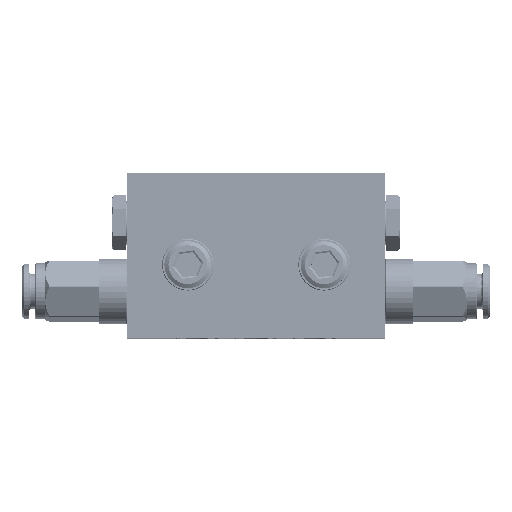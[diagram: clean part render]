
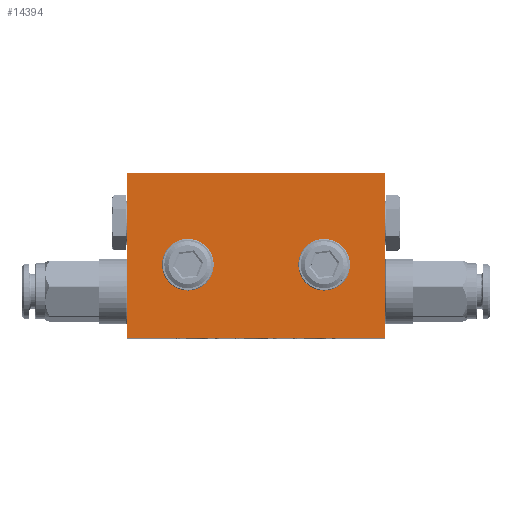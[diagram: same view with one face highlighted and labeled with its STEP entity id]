
A CAD part, top view. The second image highlights one B-rep face of the part: STEP entity #14394.
In plain terms, the highlighted planar face has unit normal (0, 0, 1) as drawn and (0, 0, -1) by its records, which use the part's own axes.
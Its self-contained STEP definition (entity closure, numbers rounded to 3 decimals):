
#429 = CARTESIAN_POINT ( 'NONE',  ( 27.5, 0., -4.85 ) ) ;
#1029 = CARTESIAN_POINT ( 'NONE',  ( -14.5, -15.5, -4.85 ) ) ;
#1057 = CARTESIAN_POINT ( 'NONE',  ( 0., 0., -4.85 ) ) ;
#1466 = EDGE_CURVE ( 'NONE', #14002, #42035, #27618, .T. ) ;
#2678 = ORIENTED_EDGE ( 'NONE', *, *, #15891, .F. ) ;
#3101 = CARTESIAN_POINT ( 'NONE',  ( -27.5, -35., -4.85 ) ) ;
#3569 = LINE ( 'NONE', #25294, #26874 ) ;
#4361 = EDGE_CURVE ( 'NONE', #18290, #4427, #34088, .T. ) ;
#4427 = VERTEX_POINT ( 'NONE', #8707 ) ;
#5459 = DIRECTION ( 'NONE',  ( 1., 0., 0. ) ) ;
#8068 = DIRECTION ( 'NONE',  ( 0., 0., -1. ) ) ;
#8304 = CARTESIAN_POINT ( 'NONE',  ( 0., 0., -4.85 ) ) ;
#8707 = CARTESIAN_POINT ( 'NONE',  ( -27.5, 0., -4.85 ) ) ;
#8827 = VERTEX_POINT ( 'NONE', #42617 ) ;
#11908 = AXIS2_PLACEMENT_3D ( 'NONE', #8304, #44727, #44500 ) ;
#12988 = ORIENTED_EDGE ( 'NONE', *, *, #28572, .F. ) ;
#14002 = VERTEX_POINT ( 'NONE', #3101 ) ;
#14394 = ADVANCED_FACE ( 'NONE', ( #44958, #44275, #18410 ), #33593, .F. ) ;
#14583 = CARTESIAN_POINT ( 'NONE',  ( 27.5, -35., -4.85 ) ) ;
#15202 = EDGE_CURVE ( 'NONE', #8827, #8827, #21712, .T. ) ;
#15741 = DIRECTION ( 'NONE',  ( -1., 0., 0. ) ) ;
#15891 = EDGE_CURVE ( 'NONE', #4427, #14002, #17829, .T. ) ;
#17757 = EDGE_CURVE ( 'NONE', #26922, #26922, #20040, .T. ) ;
#17829 = LINE ( 'NONE', #29415, #28678 ) ;
#18290 = VERTEX_POINT ( 'NONE', #429 ) ;
#18410 = FACE_OUTER_BOUND ( 'NONE', #40582, .T. ) ;
#18569 = DIRECTION ( 'NONE',  ( 0., -1., 0. ) ) ;
#19678 = CARTESIAN_POINT ( 'NONE',  ( 14.5, -15.5, -4.85 ) ) ;
#20040 = CIRCLE ( 'NONE', #23142, 3.1 ) ;
#20149 = CARTESIAN_POINT ( 'NONE',  ( 0., -35., -4.85 ) ) ;
#21712 = CIRCLE ( 'NONE', #30152, 3.1 ) ;
#22331 = DIRECTION ( 'NONE',  ( 0., 0., -1. ) ) ;
#23142 = AXIS2_PLACEMENT_3D ( 'NONE', #1029, #8068, #37948 ) ;
#23337 = ORIENTED_EDGE ( 'NONE', *, *, #4361, .F. ) ;
#24326 = ORIENTED_EDGE ( 'NONE', *, *, #17757, .F. ) ;
#24893 = VECTOR ( 'NONE', #15741, 1000. ) ;
#25294 = CARTESIAN_POINT ( 'NONE',  ( 27.5, 0., -4.85 ) ) ;
#26874 = VECTOR ( 'NONE', #43686, 1000. ) ;
#26922 = VERTEX_POINT ( 'NONE', #30739 ) ;
#27618 = LINE ( 'NONE', #20149, #41942 ) ;
#28572 = EDGE_CURVE ( 'NONE', #42035, #18290, #3569, .T. ) ;
#28678 = VECTOR ( 'NONE', #18569, 1000. ) ;
#29415 = CARTESIAN_POINT ( 'NONE',  ( -27.5, 0., -4.85 ) ) ;
#29554 = DIRECTION ( 'NONE',  ( -1., 0., 0. ) ) ;
#30152 = AXIS2_PLACEMENT_3D ( 'NONE', #19678, #22331, #29554 ) ;
#30739 = CARTESIAN_POINT ( 'NONE',  ( -11.4, -15.5, -4.85 ) ) ;
#31300 = ORIENTED_EDGE ( 'NONE', *, *, #15202, .F. ) ;
#33593 = PLANE ( 'NONE',  #11908 ) ;
#34088 = LINE ( 'NONE', #1057, #24893 ) ;
#37948 = DIRECTION ( 'NONE',  ( 1., 0., 0. ) ) ;
#40582 = EDGE_LOOP ( 'NONE', ( #42319, #2678, #23337, #12988 ) ) ;
#41942 = VECTOR ( 'NONE', #5459, 1000. ) ;
#42035 = VERTEX_POINT ( 'NONE', #14583 ) ;
#42319 = ORIENTED_EDGE ( 'NONE', *, *, #1466, .F. ) ;
#42617 = CARTESIAN_POINT ( 'NONE',  ( 11.4, -15.5, -4.85 ) ) ;
#43686 = DIRECTION ( 'NONE',  ( 0., 1., 0. ) ) ;
#44275 = FACE_BOUND ( 'NONE', #47670, .T. ) ;
#44500 = DIRECTION ( 'NONE',  ( 1., 0., 0. ) ) ;
#44727 = DIRECTION ( 'NONE',  ( 0., 0., 1. ) ) ;
#44958 = FACE_BOUND ( 'NONE', #47313, .T. ) ;
#47313 = EDGE_LOOP ( 'NONE', ( #24326 ) ) ;
#47670 = EDGE_LOOP ( 'NONE', ( #31300 ) ) ;
